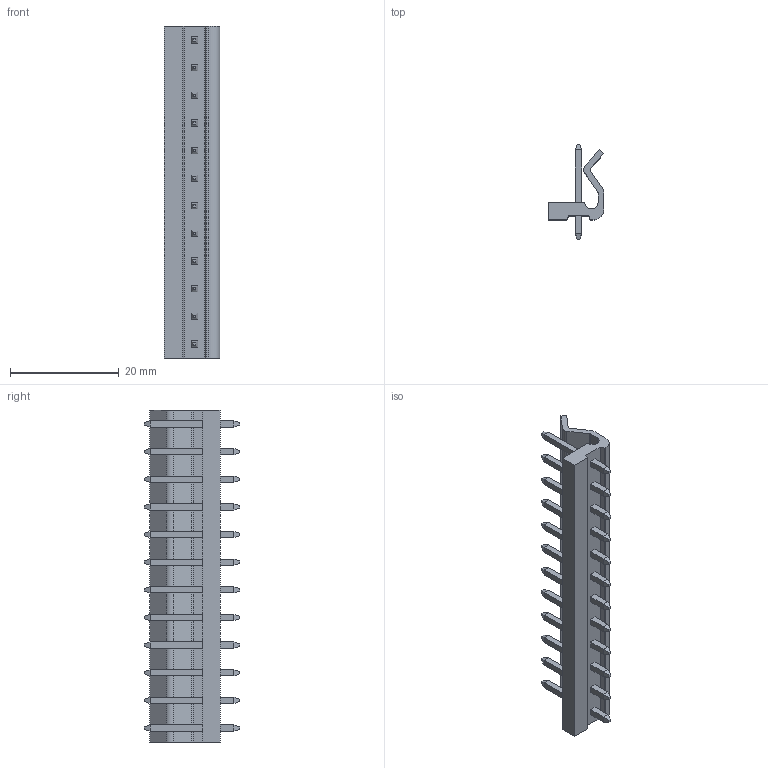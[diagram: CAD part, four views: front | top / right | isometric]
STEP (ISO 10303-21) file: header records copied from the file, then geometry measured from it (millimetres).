
FILE_DESCRIPTION (( 'STEP AP214' ), '1' );
FILE_NAME ('4871-12TSB.STEP', '2016-12-26T10:31:29', ( 'admin' ), ( '' ), 'SwSTEP 2.0', 'SolidWorks 2011', '' );
FILE_SCHEMA (( 'AUTOMOTIVE_DESIGN' ));
Length unit declared in the file: millimetre
Products named in the file (3): 零件2; 4871-12TSB; 零件1
Assembly tree (13 placements, depth 2):
  4871-12TSB
    零件2  x12
    零件1
Bounding box: 10.2 x 17.5 x 61.02 mm (x, y, z)
Volume: 2549 mm3; surface area: 3995.9 mm2
Topology: 25 solids, 25 shells, 262 faces, 540 edges, 328 vertices
Faces by surface type: plane 256, cylinder 6
Entity records: 1399 total; most frequent: DIRECTION 228, CARTESIAN_POINT 222, ORIENTED_EDGE 200, EDGE_CURVE 100, VECTOR 88, LINE 88, AXIS2_PLACEMENT_3D 70, VERTEX_POINT 64
